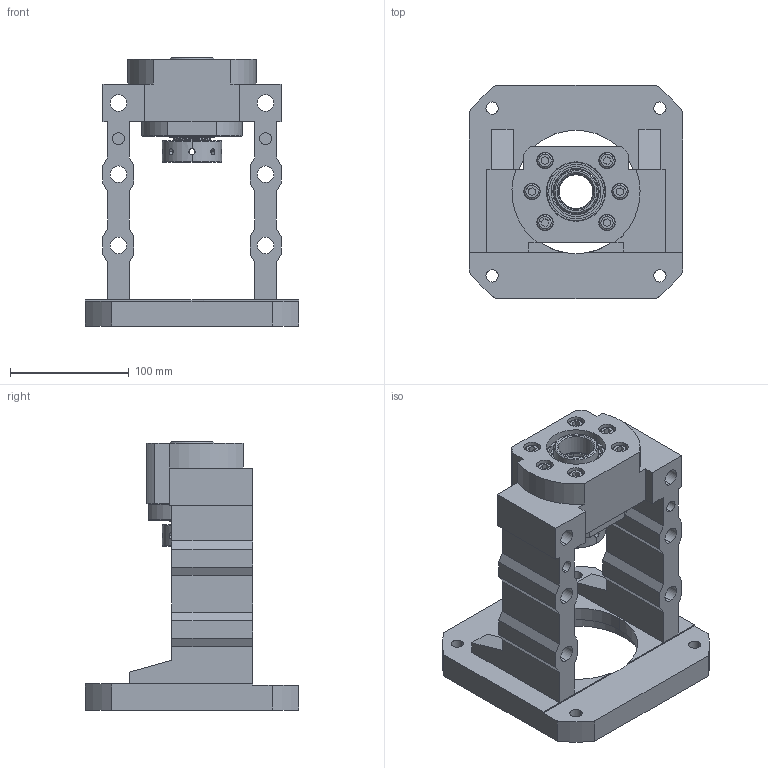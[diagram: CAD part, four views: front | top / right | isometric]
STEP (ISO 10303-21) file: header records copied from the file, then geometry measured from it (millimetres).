
FILE_DESCRIPTION (( 'STEP AP203' ), '1' );
FILE_NAME ('MBCF30-H²Õ¦X¥ó.STEP', '2022-11-03T01:47:34', ( '' ), ( '' ), 'SwSTEP 2.0', 'SolidWorks 2018', '' );
FILE_SCHEMA (( 'CONFIG_CONTROL_DESIGN' ));
Length unit declared in the file: millimetre
Products named in the file (1): MBCF30-H組合件
Bounding box: 180 x 180 x 226 mm (x, y, z)
Surface area: 219220.4 mm2 (no closed solid volume)
Topology: 0 solids, 23 shells, 347 faces, 969 edges, 641 vertices
Faces by surface type: plane 135, cylinder 118, cone 62, torus 24, bspline 8
Entity records: 23418 total; most frequent: CARTESIAN_POINT 14468, DIRECTION 1886, ORIENTED_EDGE 1711, EDGE_CURVE 961, AXIS2_PLACEMENT_3D 713, VERTEX_POINT 641, VECTOR 460, LINE 460
